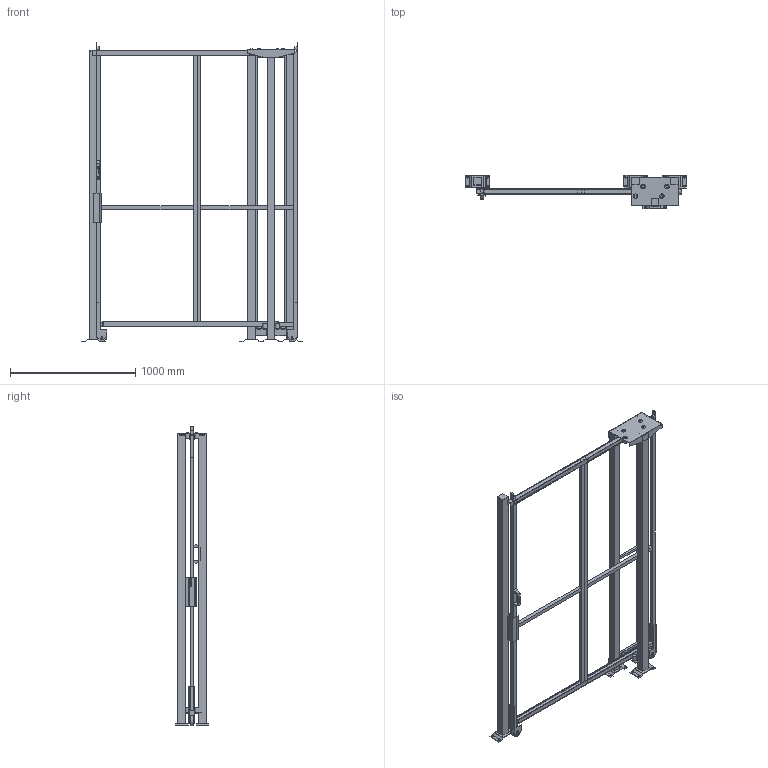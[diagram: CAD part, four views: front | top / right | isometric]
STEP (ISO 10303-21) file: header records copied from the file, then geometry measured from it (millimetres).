
FILE_DESCRIPTION(/* description */ (''),/* implementation_level */ '2;1');
FILE_NAME(/* name */ 'C:\SafeGuarding\ELABORATI\KLADKA_2025-03-20-07-42-50.stp',/* time_stamp */ '2025-03-20T07:42:53+01:00',/* author */ ('admin'),/* organization */ (''),/* preprocessor_version */ 'ST-DEVELOPER v18.1',/* originating_system */ 'AutoCAD Mechanical',/* authorisation */ '');
FILE_SCHEMA (('AUTOMOTIVE_DESIGN { 1 0 10303 214 3 1 1 }'));
Length unit declared in the file: millimetre
Products named in the file (4): Product; R_VFPA.REPE30.08002200; R_VFPA.REPE20.02502200; P_VFMA.V360SDU.2320
Assembly tree (7 placements, depth 2):
  Product
    R_VFPA.REPE30.08002200  x2
    R_VFPA.REPE20.02502200
    P_VFMA.V360SDU.2320  x4
Bounding box: 1762.03 x 264.11 x 2390.02 mm (x, y, z)
Volume: 50662054.2 mm3; surface area: 6607603.9 mm2
Topology: 60 solids, 71 shells, 549 faces, 1672 edges, 1655 vertices
Faces by surface type: plane 497, cylinder 50, sphere 2
Full cylindrical faces by diameter (mm): 9 x4, 11 x16, 13 x4, 30 x6, 36 x8, 80 x2
Entity records: 14391 total; most frequent: CARTESIAN_POINT 2997, DIRECTION 2200, ORIENTED_EDGE 2058, EDGE_CURVE 1078, LINE 1032, VECTOR 1032, VERTEX_POINT 758, AXIS2_PLACEMENT_3D 584
